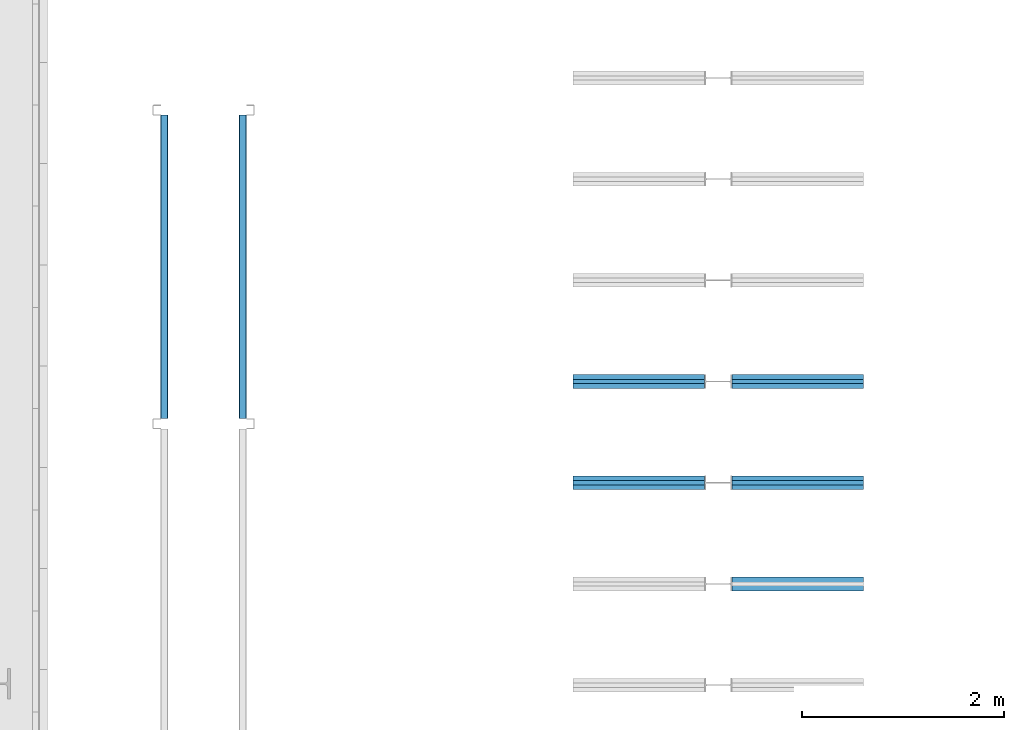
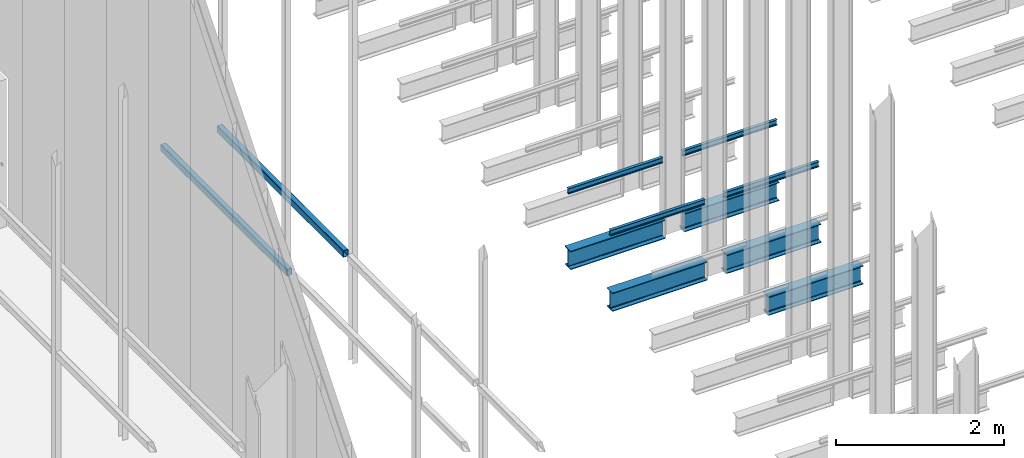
# One storey, part 172 of 302: 11 beams.
"""IFC2X3 building model written with IfcOpenShell, lengths in metres."""

from ifc_helpers import new_model, entity, si_unit, converted_unit, derived_unit, direction, frame, frame_2d, origin, place, context, subcontext, project, spatial, polyline, circle_curve, parameter, trimmed, segment, composite_curve, i_section, outline, extrude, material, type_object, element, save


model = new_model("IFC2X3")

# Units and contexts
model_context = context("Model", 3, precision=1e-05, world=origin(), true_north=direction((6.12303176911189e-17, 1.0)))
body_context = subcontext(model_context, "Body", "Model", "MODEL_VIEW")
ifc_project = project(units=[si_unit("LENGTHUNIT", "METRE"), si_unit("AREAUNIT", "SQUARE_METRE"), si_unit("VOLUMEUNIT", "CUBIC_METRE"), converted_unit("PLANEANGLEUNIT", "DEGREE", entity("IfcRatioMeasure", 0.0174532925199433), si_unit("PLANEANGLEUNIT", "RADIAN"), dimensions=[0, 0, 0, 0, 0, 0, 0]), si_unit("MASSUNIT", "GRAM", prefix="KILO"), derived_unit("MASSDENSITYUNIT", [(si_unit("MASSUNIT", "GRAM", prefix="KILO"), 1), (si_unit("LENGTHUNIT", "METRE"), -3)]), derived_unit("MOMENTOFINERTIAUNIT", [(si_unit("LENGTHUNIT", "METRE"), 4)]), si_unit("TIMEUNIT", "SECOND"), si_unit("FREQUENCYUNIT", "HERTZ"), si_unit("THERMODYNAMICTEMPERATUREUNIT", "DEGREE_CELSIUS"), derived_unit("THERMALTRANSMITTANCEUNIT", [(si_unit("MASSUNIT", "GRAM", prefix="KILO"), 1), (si_unit("THERMODYNAMICTEMPERATUREUNIT", "KELVIN"), -1), (si_unit("TIMEUNIT", "SECOND"), -3)]), derived_unit("VOLUMETRICFLOWRATEUNIT", [(si_unit("LENGTHUNIT", "METRE"), 3), (si_unit("TIMEUNIT", "SECOND"), -1)]), si_unit("ELECTRICCURRENTUNIT", "AMPERE"), si_unit("ELECTRICVOLTAGEUNIT", "VOLT"), si_unit("POWERUNIT", "WATT"), si_unit("FORCEUNIT", "NEWTON", prefix="KILO"), si_unit("ILLUMINANCEUNIT", "LUX"), si_unit("LUMINOUSFLUXUNIT", "LUMEN"), si_unit("LUMINOUSINTENSITYUNIT", "CANDELA"), derived_unit("USERDEFINED", [(si_unit("MASSUNIT", "GRAM", prefix="KILO"), -1), (si_unit("LENGTHUNIT", "METRE"), -2), (si_unit("TIMEUNIT", "SECOND"), 3), (si_unit("LUMINOUSFLUXUNIT", "LUMEN"), 1)]), derived_unit("LINEARVELOCITYUNIT", [(si_unit("LENGTHUNIT", "METRE"), 1), (si_unit("TIMEUNIT", "SECOND"), -1)]), si_unit("PRESSUREUNIT", "PASCAL"), derived_unit("USERDEFINED", [(si_unit("LENGTHUNIT", "METRE"), -2), (si_unit("MASSUNIT", "GRAM", prefix="KILO"), 1), (si_unit("TIMEUNIT", "SECOND"), -2)]), derived_unit("LINEARFORCEUNIT", [(si_unit("MASSUNIT", "GRAM", prefix="KILO"), 1), (si_unit("LENGTHUNIT", "METRE"), 1), (si_unit("TIMEUNIT", "SECOND"), -2), (si_unit("LENGTHUNIT", "METRE"), -1)]), derived_unit("PLANARFORCEUNIT", [(si_unit("MASSUNIT", "GRAM", prefix="KILO"), 1), (si_unit("LENGTHUNIT", "METRE"), 1), (si_unit("TIMEUNIT", "SECOND"), -2), (si_unit("LENGTHUNIT", "METRE"), -2)])], contexts=[model_context])

# Site, building, storey
site_placement = place(None, origin())
site = spatial("IfcSite", under=ifc_project, at=site_placement, Name="Default", CompositionType="ELEMENT")
building_placement = place(site_placement, origin())
building = spatial("IfcBuilding", under=site, at=building_placement, CompositionType="ELEMENT")
storey_placement = place(building_placement, frame((0.0, 0.0, -1.3)))
storey = spatial("IfcBuildingStorey", under=building, at=storey_placement, Name="00_EG", CompositionType="ELEMENT", Elevation=-1.3)

# Beams
ifc_material_1 = material(Name="Metall - Baustahl S235 blau")
beam_type_1 = type_object("IfcBeamType", Name="RHS Träger (EN 10219-2):RHS 100 x 75 x 5", PredefinedType="NOTDEFINED")
beam_1_placement = place(storey_placement, frame((-175.305111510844, 42.6480889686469, 2.885), z_axis=(0.0, 0.0, 1.0), x_axis=(0.0, 1.0, 0.0)))
element("IfcBeam", 1, at=beam_1_placement, inside=storey, type_object=beam_type_1, material=ifc_material_1, Name="RHS Träger (EN 10219-2):RHS 100 x 75 x 5", ObjectType="RHS Träger (EN 10219-2):RHS 100 x 75 x 5", context=body_context, shape_type="SweptSolid", body=[
    extrude(outline(composite_curve([segment(trimmed(circle_curve(frame_2d((-0.0274999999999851, -0.0400000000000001), x_axis=(1.0, 0.0)), 0.01), [parameter(180.0)], [parameter(270.0)], True, "PARAMETER"), True, "CONTINUOUS"), segment(polyline([(-0.0274999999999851, -0.05), (0.0274999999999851, -0.05)]), True, "CONTINUOUS"), segment(trimmed(circle_curve(frame_2d((0.0274999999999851, -0.0400000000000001), x_axis=(1.0, 0.0)), 0.01), [parameter(270.0)], [parameter(5.08888749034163e-14)], True, "PARAMETER"), True, "CONTINUOUS"), segment(polyline([(0.0375000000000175, -0.0399999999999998), (0.0375000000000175, 0.0400000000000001)]), True, "CONTINUOUS"), segment(trimmed(circle_curve(frame_2d((0.0274999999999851, 0.0399999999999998), x_axis=(1.0, 0.0)), 0.01), [parameter(360.0)], [parameter(89.9999999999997)], True, "PARAMETER"), True, "CONTINUOUS"), segment(polyline([(0.0274999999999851, 0.05), (-0.0274999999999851, 0.05)]), True, "CONTINUOUS"), segment(trimmed(circle_curve(frame_2d((-0.0274999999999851, 0.0399999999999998), x_axis=(1.0, 0.0)), 0.01), [parameter(90.0000000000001)], [parameter(180.0)], True, "PARAMETER"), True, "CONTINUOUS"), segment(polyline([(-0.0374999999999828, 0.0400000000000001), (-0.0374999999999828, -0.0399999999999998)]), True, "CONTINUOUS")], self_intersect=False), holes=[composite_curve([segment(polyline([(0.0274999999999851, -0.0450000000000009), (-0.0274999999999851, -0.0450000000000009)]), True, "CONTINUOUS"), segment(trimmed(circle_curve(frame_2d((-0.0274999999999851, -0.0400000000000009), x_axis=(1.0, 0.0)), 0.005), [parameter(180.0)], [parameter(270.0)], True, "PARAMETER"), False, "CONTINUOUS"), segment(polyline([(-0.0325000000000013, -0.0400000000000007), (-0.0325000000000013, 0.0399999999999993)]), True, "CONTINUOUS"), segment(trimmed(circle_curve(frame_2d((-0.0274999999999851, 0.039999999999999), x_axis=(1.0, 0.0)), 0.005), [parameter(90.0000000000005)], [parameter(180.0)], True, "PARAMETER"), False, "CONTINUOUS"), segment(polyline([(-0.0274999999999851, 0.0449999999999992), (0.0274999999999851, 0.0449999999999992)]), True, "CONTINUOUS"), segment(trimmed(circle_curve(frame_2d((0.0274999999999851, 0.039999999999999), x_axis=(1.0, 0.0)), 0.005), [parameter(0.0)], [parameter(90.0000000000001)], True, "PARAMETER"), False, "CONTINUOUS"), segment(polyline([(0.0325000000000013, 0.0399999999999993), (0.0325000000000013, -0.0400000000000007)]), True, "CONTINUOUS"), segment(trimmed(circle_curve(frame_2d((0.0274999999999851, -0.0400000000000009), x_axis=(1.0, 0.0)), 0.005), [parameter(270.0)], [parameter(4.07110999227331e-13)], True, "PARAMETER"), False, "CONTINUOUS")], self_intersect=False)]), frame((0.000100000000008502, 0.0375000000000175, -0.0500000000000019), z_axis=(1.0, 0.0, 0.0), x_axis=(0.0, -1.0, 0.0)), (0.0, 0.0, 1.0), 2.99979999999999),
])
beam_2_placement = place(storey_placement, frame((-176.155111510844, 42.6480889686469, 2.885), z_axis=(0.0, 0.0, 1.0), x_axis=(0.0, 1.0, 0.0)))
element("IfcBeam", 2, at=beam_2_placement, inside=storey, type_object=beam_type_1, material=ifc_material_1, Name="RHS Träger (EN 10219-2):RHS 100 x 75 x 5", ObjectType="RHS Träger (EN 10219-2):RHS 100 x 75 x 5", context=body_context, shape_type="SweptSolid", body=[
    extrude(outline(composite_curve([segment(polyline([(-0.0399999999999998, -0.0374999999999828), (0.0400000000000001, -0.0374999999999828)]), True, "CONTINUOUS"), segment(trimmed(circle_curve(frame_2d((0.0399999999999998, -0.0274999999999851), x_axis=(0.0, 1.0)), 0.01), [parameter(180.0)], [parameter(270.0)], True, "PARAMETER"), True, "CONTINUOUS"), segment(polyline([(0.05, -0.0274999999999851), (0.05, 0.0274999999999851)]), True, "CONTINUOUS"), segment(trimmed(circle_curve(frame_2d((0.0399999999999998, 0.0274999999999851), x_axis=(0.0, 1.0)), 0.01), [parameter(270.0)], [parameter(4.07110999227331e-13)], True, "PARAMETER"), True, "CONTINUOUS"), segment(polyline([(0.0400000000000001, 0.0375000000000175), (-0.0399999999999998, 0.0375000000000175)]), True, "CONTINUOUS"), segment(trimmed(circle_curve(frame_2d((-0.0400000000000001, 0.0274999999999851), x_axis=(0.0, 1.0)), 0.01), [parameter(360.0)], [parameter(90.0000000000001)], True, "PARAMETER"), True, "CONTINUOUS"), segment(polyline([(-0.05, 0.0274999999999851), (-0.05, -0.0274999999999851)]), True, "CONTINUOUS"), segment(trimmed(circle_curve(frame_2d((-0.0400000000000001, -0.0274999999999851), x_axis=(0.0, 1.0)), 0.01), [parameter(90.0000000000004)], [parameter(180.0)], True, "PARAMETER"), True, "CONTINUOUS")], self_intersect=False), holes=[composite_curve([segment(trimmed(circle_curve(frame_2d((-0.0400000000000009, 0.0274999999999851), x_axis=(0.0, 1.0)), 0.005), [parameter(360.0)], [parameter(89.9999999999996)], True, "PARAMETER"), False, "CONTINUOUS"), segment(polyline([(-0.0400000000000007, 0.0325000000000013), (0.0399999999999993, 0.0325000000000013)]), True, "CONTINUOUS"), segment(trimmed(circle_curve(frame_2d((0.039999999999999, 0.0274999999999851), x_axis=(0.0, 1.0)), 0.005), [parameter(270.0)], [parameter(0.0)], True, "PARAMETER"), False, "CONTINUOUS"), segment(polyline([(0.0449999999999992, 0.0274999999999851), (0.0449999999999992, -0.0274999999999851)]), True, "CONTINUOUS"), segment(trimmed(circle_curve(frame_2d((0.039999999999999, -0.0274999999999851), x_axis=(0.0, 1.0)), 0.005), [parameter(180.0)], [parameter(269.999999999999)], True, "PARAMETER"), False, "CONTINUOUS"), segment(polyline([(0.0399999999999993, -0.0325000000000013), (-0.0400000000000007, -0.0325000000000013)]), True, "CONTINUOUS"), segment(trimmed(circle_curve(frame_2d((-0.0400000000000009, -0.0274999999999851), x_axis=(0.0, 1.0)), 0.005), [parameter(90.0000000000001)], [parameter(180.0)], True, "PARAMETER"), False, "CONTINUOUS"), segment(polyline([(-0.0450000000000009, -0.0274999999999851), (-0.0450000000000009, 0.0274999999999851)]), True, "CONTINUOUS")], self_intersect=False)]), frame((0.000100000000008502, -0.0375000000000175, -0.0500000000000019), z_axis=(1.0, 0.0, 0.0), x_axis=(0.0, 0.0, -1.0)), (0.0, 0.0, 1.0), 2.99979999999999),
])
ifc_material_2 = material(Name="Metall - Baustahl S235")
beam_type_2 = type_object("IfcBeamType", Name="IPN Träger:IPN 80", PredefinedType="NOTDEFINED")
beam_3_placement = place(storey_placement, frame((-170.510111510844, 42.9945889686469, 2.42)))
element("IfcBeam", 3, at=beam_3_placement, inside=storey, type_object=beam_type_2, material=ifc_material_2, Name="IPN Träger:IPN 80", ObjectType="IPN Träger:IPN 80", context=body_context, shape_type="SweptSolid", body=[
    extrude(outline(composite_curve([segment(polyline([(0.0375704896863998, -0.0210000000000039), (0.0399999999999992, -0.0210000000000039)]), True, "CONTINUOUS"), segment(polyline([(0.0399999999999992, -0.0210000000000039), (0.0399999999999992, 0.0209999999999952)]), True, "CONTINUOUS"), segment(polyline([(0.039999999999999, 0.0209999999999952), (0.037570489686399, 0.0209999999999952)]), True, "CONTINUOUS"), segment(trimmed(circle_curve(frame_2d((0.0375704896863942, 0.0187000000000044), x_axis=(0.0, 1.0)), 0.0022999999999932), [parameter(0.0)], [parameter(82.0300000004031)], True, "PARAMETER"), True, "CONTINUOUS"), segment(polyline([(0.0352927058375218, 0.019018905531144), (0.0333732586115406, 0.00530924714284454)]), True, "CONTINUOUS"), segment(trimmed(circle_curve(frame_2d((0.0295109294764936, 0.00584999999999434), x_axis=(0.990340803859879, -0.138654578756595)), 0.00389999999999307), [parameter(277.969999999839)], [parameter(0.0)], True, "PARAMETER"), False, "CONTINUOUS"), segment(polyline([(0.0295109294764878, 0.00194999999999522), (-0.0295109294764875, 0.00194999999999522)]), True, "CONTINUOUS"), segment(trimmed(circle_curve(frame_2d((-0.0295109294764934, 0.00584999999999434), x_axis=(0.0, -1.0)), 0.00389999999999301), [parameter(277.969999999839)], [parameter(0.0)], True, "PARAMETER"), False, "CONTINUOUS"), segment(polyline([(-0.0333732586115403, 0.00530924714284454), (-0.0352927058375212, 0.019018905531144)]), True, "CONTINUOUS"), segment(trimmed(circle_curve(frame_2d((-0.0375704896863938, 0.0187000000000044), x_axis=(0.990340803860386, 0.138654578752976)), 0.00229999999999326), [parameter(0.0)], [parameter(82.0300000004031)], True, "PARAMETER"), True, "CONTINUOUS"), segment(polyline([(-0.0375704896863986, 0.0209999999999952), (-0.0400000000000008, 0.0209999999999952)]), True, "CONTINUOUS"), segment(polyline([(-0.0400000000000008, 0.0209999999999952), (-0.0400000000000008, -0.0210000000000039)]), True, "CONTINUOUS"), segment(polyline([(-0.0400000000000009, -0.0210000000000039), (-0.037570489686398, -0.0210000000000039)]), True, "CONTINUOUS"), segment(trimmed(circle_curve(frame_2d((-0.0375704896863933, -0.0187000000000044), x_axis=(0.0, -1.0)), 0.00229999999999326), [parameter(0.0)], [parameter(82.0300000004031)], True, "PARAMETER"), True, "CONTINUOUS"), segment(polyline([(-0.0352927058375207, -0.019018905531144), (-0.0333732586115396, -0.00530924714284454)]), True, "CONTINUOUS"), segment(trimmed(circle_curve(frame_2d((-0.0295109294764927, -0.00584999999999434), x_axis=(-0.990340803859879, 0.138654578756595)), 0.00389999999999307), [parameter(277.969999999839)], [parameter(0.0)], True, "PARAMETER"), False, "CONTINUOUS"), segment(polyline([(-0.0295109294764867, -0.00195000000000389), (0.0295109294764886, -0.00195000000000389)]), True, "CONTINUOUS"), segment(trimmed(circle_curve(frame_2d((0.0295109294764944, -0.00584999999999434), x_axis=(0.0, 1.0)), 0.00389999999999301), [parameter(277.969999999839)], [parameter(0.0)], True, "PARAMETER"), False, "CONTINUOUS"), segment(polyline([(0.0333732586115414, -0.00530924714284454), (0.0352927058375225, -0.019018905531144)]), True, "CONTINUOUS"), segment(trimmed(circle_curve(frame_2d((0.0375704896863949, -0.0187000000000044), x_axis=(-0.990340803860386, -0.138654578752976)), 0.00229999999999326), [parameter(0.0)], [parameter(82.0300000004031)], True, "PARAMETER"), True, "CONTINUOUS")], self_intersect=False)), frame((0.000100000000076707, 0.0209999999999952, -0.0400000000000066), z_axis=(1.0, 0.0, 0.0), x_axis=(0.0, 0.0, -1.0)), (0.0, 0.0, 1.0), 1.29990000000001),
])
beam_4_placement = place(storey_placement, frame((-170.780111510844, 43.0365889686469, 2.42), z_axis=(0.0, 0.0, 1.0), x_axis=(-1.0, 0.0, 0.0)))
element("IfcBeam", 4, at=beam_4_placement, inside=storey, type_object=beam_type_2, material=ifc_material_2, Name="IPN Träger:IPN 80", ObjectType="IPN Träger:IPN 80", context=body_context, shape_type="SweptSolid", body=[
    extrude(outline(composite_curve([segment(polyline([(0.0375704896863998, -0.0209999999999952), (0.0399999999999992, -0.0209999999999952)]), True, "CONTINUOUS"), segment(polyline([(0.0399999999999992, -0.0209999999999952), (0.0399999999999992, 0.0210000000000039)]), True, "CONTINUOUS"), segment(polyline([(0.039999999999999, 0.0210000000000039), (0.037570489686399, 0.0210000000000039)]), True, "CONTINUOUS"), segment(trimmed(circle_curve(frame_2d((0.0375704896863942, 0.0187000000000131), x_axis=(0.0, 1.0)), 0.0022999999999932), [parameter(0.0)], [parameter(82.0300000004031)], True, "PARAMETER"), True, "CONTINUOUS"), segment(polyline([(0.0352927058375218, 0.0190189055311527), (0.0333732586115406, 0.0053092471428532)]), True, "CONTINUOUS"), segment(trimmed(circle_curve(frame_2d((0.0295109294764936, 0.005850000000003), x_axis=(0.990340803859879, -0.138654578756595)), 0.00389999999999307), [parameter(277.969999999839)], [parameter(0.0)], True, "PARAMETER"), False, "CONTINUOUS"), segment(polyline([(0.0295109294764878, 0.00195000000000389), (-0.0295109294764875, 0.00195000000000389)]), True, "CONTINUOUS"), segment(trimmed(circle_curve(frame_2d((-0.0295109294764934, 0.005850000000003), x_axis=(0.0, -1.0)), 0.00389999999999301), [parameter(277.969999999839)], [parameter(0.0)], True, "PARAMETER"), False, "CONTINUOUS"), segment(polyline([(-0.0333732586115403, 0.0053092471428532), (-0.0352927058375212, 0.0190189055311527)]), True, "CONTINUOUS"), segment(trimmed(circle_curve(frame_2d((-0.0375704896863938, 0.0187000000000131), x_axis=(0.990340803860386, 0.138654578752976)), 0.00229999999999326), [parameter(0.0)], [parameter(82.0300000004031)], True, "PARAMETER"), True, "CONTINUOUS"), segment(polyline([(-0.0375704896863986, 0.0210000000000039), (-0.0400000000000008, 0.0210000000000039)]), True, "CONTINUOUS"), segment(polyline([(-0.0400000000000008, 0.0210000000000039), (-0.0400000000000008, -0.0209999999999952)]), True, "CONTINUOUS"), segment(polyline([(-0.0400000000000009, -0.0209999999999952), (-0.037570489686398, -0.0209999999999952)]), True, "CONTINUOUS"), segment(trimmed(circle_curve(frame_2d((-0.0375704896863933, -0.0186999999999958), x_axis=(0.0, -1.0)), 0.00229999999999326), [parameter(0.0)], [parameter(82.0300000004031)], True, "PARAMETER"), True, "CONTINUOUS"), segment(polyline([(-0.0352927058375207, -0.0190189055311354), (-0.0333732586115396, -0.00530924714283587)]), True, "CONTINUOUS"), segment(trimmed(circle_curve(frame_2d((-0.0295109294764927, -0.00584999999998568), x_axis=(-0.990340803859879, 0.138654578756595)), 0.00389999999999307), [parameter(277.969999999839)], [parameter(0.0)], True, "PARAMETER"), False, "CONTINUOUS"), segment(polyline([(-0.0295109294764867, -0.00194999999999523), (0.0295109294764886, -0.00194999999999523)]), True, "CONTINUOUS"), segment(trimmed(circle_curve(frame_2d((0.0295109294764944, -0.00584999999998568), x_axis=(0.0, 1.0)), 0.00389999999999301), [parameter(277.969999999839)], [parameter(0.0)], True, "PARAMETER"), False, "CONTINUOUS"), segment(polyline([(0.0333732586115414, -0.00530924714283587), (0.0352927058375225, -0.0190189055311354)]), True, "CONTINUOUS"), segment(trimmed(circle_curve(frame_2d((0.0375704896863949, -0.0186999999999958), x_axis=(-0.990340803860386, -0.138654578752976)), 0.00229999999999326), [parameter(0.0)], [parameter(82.0300000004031)], True, "PARAMETER"), True, "CONTINUOUS")], self_intersect=False)), frame((0.000100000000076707, 0.0209999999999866, -0.0400000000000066), z_axis=(1.0, 0.0, 0.0), x_axis=(0.0, 0.0, -1.0)), (0.0, 0.0, 1.0), 1.29990000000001),
])
beam_5_placement = place(storey_placement, frame((-170.510111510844, 41.9945889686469, 2.42)))
element("IfcBeam", 5, at=beam_5_placement, inside=storey, type_object=beam_type_2, material=ifc_material_2, Name="IPN Träger:IPN 80", ObjectType="IPN Träger:IPN 80", context=body_context, shape_type="SweptSolid", body=[
    extrude(outline(composite_curve([segment(polyline([(0.0375704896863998, -0.0210000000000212), (0.0399999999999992, -0.0210000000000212)]), True, "CONTINUOUS"), segment(polyline([(0.0399999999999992, -0.0210000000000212), (0.0399999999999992, 0.0209999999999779)]), True, "CONTINUOUS"), segment(polyline([(0.039999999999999, 0.0209999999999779), (0.037570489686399, 0.0209999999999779)]), True, "CONTINUOUS"), segment(trimmed(circle_curve(frame_2d((0.0375704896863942, 0.0186999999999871), x_axis=(0.0, 1.0)), 0.0022999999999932), [parameter(0.0)], [parameter(82.0300000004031)], True, "PARAMETER"), True, "CONTINUOUS"), segment(polyline([(0.0352927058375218, 0.0190189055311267), (0.0333732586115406, 0.00530924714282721)]), True, "CONTINUOUS"), segment(trimmed(circle_curve(frame_2d((0.0295109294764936, 0.00584999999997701), x_axis=(0.990340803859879, -0.138654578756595)), 0.00389999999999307), [parameter(277.969999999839)], [parameter(0.0)], True, "PARAMETER"), False, "CONTINUOUS"), segment(polyline([(0.0295109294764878, 0.0019499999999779), (-0.0295109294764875, 0.0019499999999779)]), True, "CONTINUOUS"), segment(trimmed(circle_curve(frame_2d((-0.0295109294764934, 0.00584999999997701), x_axis=(0.0, -1.0)), 0.00389999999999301), [parameter(277.969999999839)], [parameter(0.0)], True, "PARAMETER"), False, "CONTINUOUS"), segment(polyline([(-0.0333732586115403, 0.00530924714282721), (-0.0352927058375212, 0.0190189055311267)]), True, "CONTINUOUS"), segment(trimmed(circle_curve(frame_2d((-0.0375704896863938, 0.0186999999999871), x_axis=(0.990340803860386, 0.138654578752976)), 0.00229999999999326), [parameter(0.0)], [parameter(82.0300000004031)], True, "PARAMETER"), True, "CONTINUOUS"), segment(polyline([(-0.0375704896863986, 0.0209999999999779), (-0.0400000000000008, 0.0209999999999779)]), True, "CONTINUOUS"), segment(polyline([(-0.0400000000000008, 0.0209999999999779), (-0.0400000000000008, -0.0210000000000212)]), True, "CONTINUOUS"), segment(polyline([(-0.0400000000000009, -0.0210000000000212), (-0.037570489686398, -0.0210000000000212)]), True, "CONTINUOUS"), segment(trimmed(circle_curve(frame_2d((-0.0375704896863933, -0.0187000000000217), x_axis=(0.0, -1.0)), 0.00229999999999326), [parameter(0.0)], [parameter(82.0300000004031)], True, "PARAMETER"), True, "CONTINUOUS"), segment(polyline([(-0.0352927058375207, -0.0190189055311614), (-0.0333732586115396, -0.00530924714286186)]), True, "CONTINUOUS"), segment(trimmed(circle_curve(frame_2d((-0.0295109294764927, -0.00585000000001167), x_axis=(-0.990340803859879, 0.138654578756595)), 0.00389999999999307), [parameter(277.969999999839)], [parameter(0.0)], True, "PARAMETER"), False, "CONTINUOUS"), segment(polyline([(-0.0295109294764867, -0.00195000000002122), (0.0295109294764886, -0.00195000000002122)]), True, "CONTINUOUS"), segment(trimmed(circle_curve(frame_2d((0.0295109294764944, -0.00585000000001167), x_axis=(0.0, 1.0)), 0.00389999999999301), [parameter(277.969999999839)], [parameter(0.0)], True, "PARAMETER"), False, "CONTINUOUS"), segment(polyline([(0.0333732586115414, -0.00530924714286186), (0.0352927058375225, -0.0190189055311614)]), True, "CONTINUOUS"), segment(trimmed(circle_curve(frame_2d((0.0375704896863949, -0.0187000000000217), x_axis=(-0.990340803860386, -0.138654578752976)), 0.00229999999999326), [parameter(0.0)], [parameter(82.0300000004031)], True, "PARAMETER"), True, "CONTINUOUS")], self_intersect=False)), frame((0.000100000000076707, 0.0210000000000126, -0.0400000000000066), z_axis=(1.0, 0.0, 0.0), x_axis=(0.0, 0.0, -1.0)), (0.0, 0.0, 1.0), 1.29990000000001),
])
beam_6_placement = place(storey_placement, frame((-170.780111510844, 42.036588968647, 2.42), z_axis=(0.0, 0.0, 1.0), x_axis=(-1.0, 0.0, 0.0)))
element("IfcBeam", 6, at=beam_6_placement, inside=storey, type_object=beam_type_2, material=ifc_material_2, Name="IPN Träger:IPN 80", ObjectType="IPN Träger:IPN 80", context=body_context, shape_type="SweptSolid", body=[
    extrude(outline(composite_curve([segment(polyline([(0.0375704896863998, -0.0210000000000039), (0.0399999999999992, -0.0210000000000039)]), True, "CONTINUOUS"), segment(polyline([(0.0399999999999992, -0.0210000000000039), (0.0399999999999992, 0.0209999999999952)]), True, "CONTINUOUS"), segment(polyline([(0.039999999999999, 0.0209999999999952), (0.037570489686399, 0.0209999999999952)]), True, "CONTINUOUS"), segment(trimmed(circle_curve(frame_2d((0.0375704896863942, 0.0187000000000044), x_axis=(0.0, 1.0)), 0.0022999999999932), [parameter(0.0)], [parameter(82.0300000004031)], True, "PARAMETER"), True, "CONTINUOUS"), segment(polyline([(0.0352927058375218, 0.019018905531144), (0.0333732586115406, 0.00530924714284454)]), True, "CONTINUOUS"), segment(trimmed(circle_curve(frame_2d((0.0295109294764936, 0.00584999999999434), x_axis=(0.990340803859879, -0.138654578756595)), 0.00389999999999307), [parameter(277.969999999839)], [parameter(0.0)], True, "PARAMETER"), False, "CONTINUOUS"), segment(polyline([(0.0295109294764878, 0.00194999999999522), (-0.0295109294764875, 0.00194999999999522)]), True, "CONTINUOUS"), segment(trimmed(circle_curve(frame_2d((-0.0295109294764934, 0.00584999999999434), x_axis=(0.0, -1.0)), 0.00389999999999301), [parameter(277.969999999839)], [parameter(0.0)], True, "PARAMETER"), False, "CONTINUOUS"), segment(polyline([(-0.0333732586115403, 0.00530924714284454), (-0.0352927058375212, 0.019018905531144)]), True, "CONTINUOUS"), segment(trimmed(circle_curve(frame_2d((-0.0375704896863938, 0.0187000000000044), x_axis=(0.990340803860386, 0.138654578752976)), 0.00229999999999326), [parameter(0.0)], [parameter(82.0300000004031)], True, "PARAMETER"), True, "CONTINUOUS"), segment(polyline([(-0.0375704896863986, 0.0209999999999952), (-0.0400000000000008, 0.0209999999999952)]), True, "CONTINUOUS"), segment(polyline([(-0.0400000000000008, 0.0209999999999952), (-0.0400000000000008, -0.0210000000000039)]), True, "CONTINUOUS"), segment(polyline([(-0.0400000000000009, -0.0210000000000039), (-0.037570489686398, -0.0210000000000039)]), True, "CONTINUOUS"), segment(trimmed(circle_curve(frame_2d((-0.0375704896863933, -0.0187000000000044), x_axis=(0.0, -1.0)), 0.00229999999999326), [parameter(0.0)], [parameter(82.0300000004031)], True, "PARAMETER"), True, "CONTINUOUS"), segment(polyline([(-0.0352927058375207, -0.019018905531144), (-0.0333732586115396, -0.00530924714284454)]), True, "CONTINUOUS"), segment(trimmed(circle_curve(frame_2d((-0.0295109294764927, -0.00584999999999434), x_axis=(-0.990340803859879, 0.138654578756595)), 0.00389999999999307), [parameter(277.969999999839)], [parameter(0.0)], True, "PARAMETER"), False, "CONTINUOUS"), segment(polyline([(-0.0295109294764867, -0.00195000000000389), (0.0295109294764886, -0.00195000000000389)]), True, "CONTINUOUS"), segment(trimmed(circle_curve(frame_2d((0.0295109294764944, -0.00584999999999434), x_axis=(0.0, 1.0)), 0.00389999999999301), [parameter(277.969999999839)], [parameter(0.0)], True, "PARAMETER"), False, "CONTINUOUS"), segment(polyline([(0.0333732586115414, -0.00530924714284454), (0.0352927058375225, -0.019018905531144)]), True, "CONTINUOUS"), segment(trimmed(circle_curve(frame_2d((0.0375704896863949, -0.0187000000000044), x_axis=(-0.990340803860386, -0.138654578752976)), 0.00229999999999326), [parameter(0.0)], [parameter(82.0300000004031)], True, "PARAMETER"), True, "CONTINUOUS")], self_intersect=False)), frame((0.000100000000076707, 0.0209999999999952, -0.0400000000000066), z_axis=(1.0, 0.0, 0.0), x_axis=(0.0, 0.0, -1.0)), (0.0, 0.0, 1.0), 1.29990000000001),
])
beam_type_3 = type_object("IfcBeamType", Name="IPE Träger:IPE 270", PredefinedType="NOTDEFINED")
beam_7_placement = place(storey_placement, frame((-170.510111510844, 41.0830889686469, 1.54000000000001)))
element("IfcBeam", 7, at=beam_7_placement, inside=storey, type_object=beam_type_3, material=ifc_material_2, Name="IPE Träger:IPE 270", ObjectType="IPE Träger:IPE 270", context=body_context, shape_type="SweptSolid", body=[
    extrude(i_section(OverallWidth=0.134999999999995, OverallDepth=0.27, WebThickness=0.0065999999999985, FlangeThickness=0.0102000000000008, FilletRadius=0.0149999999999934, at=frame_2d((5.96744875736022e-16, 0.0), x_axis=(0.0, 1.0))), frame((0.000100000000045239, -0.067500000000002, -0.135000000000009), z_axis=(1.0, 0.0, 0.0), x_axis=(0.0, 0.0, -1.0)), (0.0, 0.0, 1.0), 1.29990000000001),
])
beam_8_placement = place(storey_placement, frame((-170.780111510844, 42.0830889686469, 1.54000000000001), z_axis=(0.0, 0.0, 1.0), x_axis=(-1.0, 0.0, 0.0)))
element("IfcBeam", 8, at=beam_8_placement, inside=storey, type_object=beam_type_3, material=ifc_material_2, Name="IPE Träger:IPE 270", ObjectType="IPE Träger:IPE 270", context=body_context, shape_type="SweptSolid", body=[
    extrude(i_section(OverallWidth=0.134999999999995, OverallDepth=0.27, WebThickness=0.0065999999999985, FlangeThickness=0.0102000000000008, FilletRadius=0.0149999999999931, at=frame_2d((5.96744875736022e-16, 0.0), x_axis=(0.0, 1.0))), frame((0.000100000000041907, 0.067500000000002, -0.135000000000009), z_axis=(1.0, 0.0, 0.0), x_axis=(0.0, 0.0, -1.0)), (0.0, 0.0, 1.0), 1.29990000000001),
])
beam_9_placement = place(storey_placement, frame((-170.510111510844, 42.0830889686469, 1.54000000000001)))
element("IfcBeam", 9, at=beam_9_placement, inside=storey, type_object=beam_type_3, material=ifc_material_2, Name="IPE Träger:IPE 270", ObjectType="IPE Träger:IPE 270", context=body_context, shape_type="SweptSolid", body=[
    extrude(i_section(OverallWidth=0.134999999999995, OverallDepth=0.27, WebThickness=0.0065999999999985, FlangeThickness=0.0102000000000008, FilletRadius=0.0149999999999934, at=frame_2d((5.96744875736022e-16, -1.73264180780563e-14), x_axis=(0.0, 1.0))), frame((0.000100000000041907, -0.0674999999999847, -0.135000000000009), z_axis=(1.0, 0.0, 0.0), x_axis=(0.0, 0.0, -1.0)), (0.0, 0.0, 1.0), 1.29990000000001),
])
beam_10_placement = place(storey_placement, frame((-170.780111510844, 43.0830889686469, 1.54000000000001), z_axis=(0.0, 0.0, 1.0), x_axis=(-1.0, 0.0, 0.0)))
element("IfcBeam", 10, at=beam_10_placement, inside=storey, type_object=beam_type_3, material=ifc_material_2, Name="IPE Träger:IPE 270", ObjectType="IPE Träger:IPE 270", context=body_context, shape_type="SweptSolid", body=[
    extrude(i_section(OverallWidth=0.134999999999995, OverallDepth=0.27, WebThickness=0.0065999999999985, FlangeThickness=0.0102000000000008, FilletRadius=0.0149999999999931, at=frame_2d((5.96744875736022e-16, 8.66667848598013e-15), x_axis=(0.0, 1.0))), frame((0.000100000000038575, 0.0674999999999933, -0.135000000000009), z_axis=(1.0, 0.0, 0.0), x_axis=(0.0, 0.0, -1.0)), (0.0, 0.0, 1.0), 1.29990000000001),
])
beam_11_placement = place(storey_placement, frame((-170.510111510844, 43.0830889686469, 1.54000000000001)))
element("IfcBeam", 11, at=beam_11_placement, inside=storey, type_object=beam_type_3, material=ifc_material_2, Name="IPE Träger:IPE 270", ObjectType="IPE Träger:IPE 270", context=body_context, shape_type="SweptSolid", body=[
    extrude(i_section(OverallWidth=0.134999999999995, OverallDepth=0.27, WebThickness=0.0065999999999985, FlangeThickness=0.0102000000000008, FilletRadius=0.0149999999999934, at=frame_2d((5.96744875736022e-16, 0.0), x_axis=(0.0, 1.0))), frame((0.000100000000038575, -0.067500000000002, -0.135000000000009), z_axis=(1.0, 0.0, 0.0), x_axis=(0.0, 0.0, -1.0)), (0.0, 0.0, 1.0), 1.29990000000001),
])

save(model, "model.ifc")
